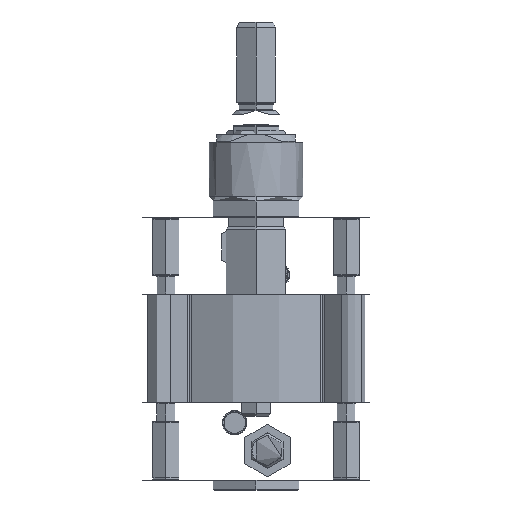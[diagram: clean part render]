
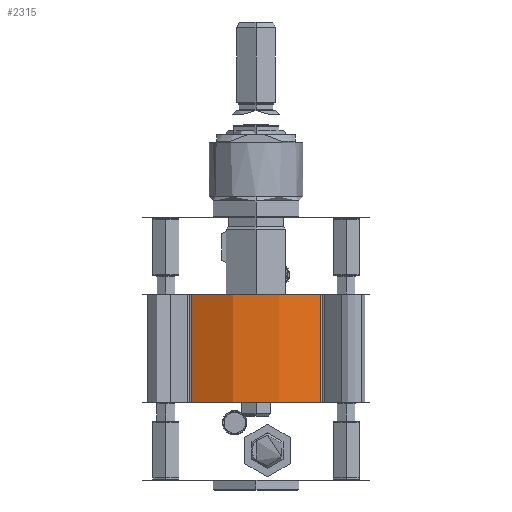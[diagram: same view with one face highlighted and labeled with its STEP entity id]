
A CAD part, left-side view. The second image highlights one B-rep face of the part: STEP entity #2315.
In plain terms, the highlighted cylindrical face has radius 66.25 mm (diameter 132.5 mm), a partial arc.
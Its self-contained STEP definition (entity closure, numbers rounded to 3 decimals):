
#2315=ADVANCED_FACE('0:7443',(#4658),#4659,.T.);
#4658=FACE_OUTER_BOUND('',#6984,.T.);
#4659=CYLINDRICAL_SURFACE('',#6985,66.25);
#6984=EDGE_LOOP('',(#13311,#13312,#13313,#13314));
#6985=AXIS2_PLACEMENT_3D('',#13315,#13316,#13317);
#13311=ORIENTED_EDGE('',*,*,#15892,.F.);
#13312=ORIENTED_EDGE('',*,*,#15930,.T.);
#13313=ORIENTED_EDGE('',*,*,#15884,.F.);
#13314=ORIENTED_EDGE('',*,*,#15931,.T.);
#13315=CARTESIAN_POINT('',(0.0,0.0,0.0));
#13316=DIRECTION('',(-0.0,0.0,1.0));
#13317=DIRECTION('',(0.707,0.707,0.0));
#15884=EDGE_CURVE('0:7494',#19387,#19389,#19390,.T.);
#15892=EDGE_CURVE('0:7512',#19399,#19401,#19402,.T.);
#15930=EDGE_CURVE('0:7617',#19399,#19389,#19456,.F.);
#15931=EDGE_CURVE('0:7620',#19387,#19401,#19457,.T.);
#19387=VERTEX_POINT('',#24888);
#19389=VERTEX_POINT('',#24890);
#19390=LINE('',#24891,#24892);
#19399=VERTEX_POINT('',#24902);
#19401=VERTEX_POINT('',#24904);
#19402=LINE('',#24905,#24906);
#19456=CIRCLE('',#24968,66.25);
#19457=CIRCLE('',#24969,66.25);
#24888=CARTESIAN_POINT('',(-53.495,39.081,0.0));
#24890=CARTESIAN_POINT('',(-53.495,39.081,66.0));
#24891=CARTESIAN_POINT('',(-53.495,39.081,0.0));
#24892=VECTOR('',#28288,0.001);
#24902=CARTESIAN_POINT('',(-53.495,-39.081,66.0));
#24904=CARTESIAN_POINT('',(-53.495,-39.081,0.0));
#24905=CARTESIAN_POINT('',(-53.495,-39.081,0.0));
#24906=VECTOR('',#28302,0.001);
#24968=AXIS2_PLACEMENT_3D('',#28368,#28369,#28370);
#24969=AXIS2_PLACEMENT_3D('',#28371,#28372,#28373);
#28288=DIRECTION('',(0.0,0.0,1.0));
#28302=DIRECTION('',(-0.0,0.0,-1.0));
#28368=CARTESIAN_POINT('',(0.0,0.0,66.0));
#28369=DIRECTION('',(-0.0,0.0,1.0));
#28370=DIRECTION('',(0.707,0.707,0.0));
#28371=CARTESIAN_POINT('',(0.0,0.0,0.0));
#28372=DIRECTION('',(0.0,-0.0,1.0));
#28373=DIRECTION('',(0.707,0.707,0.0));
